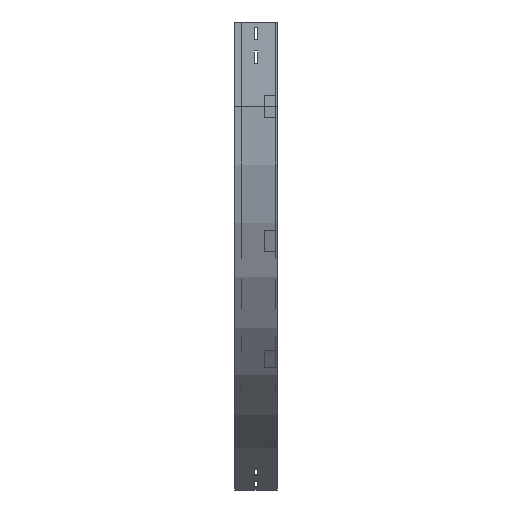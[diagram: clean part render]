
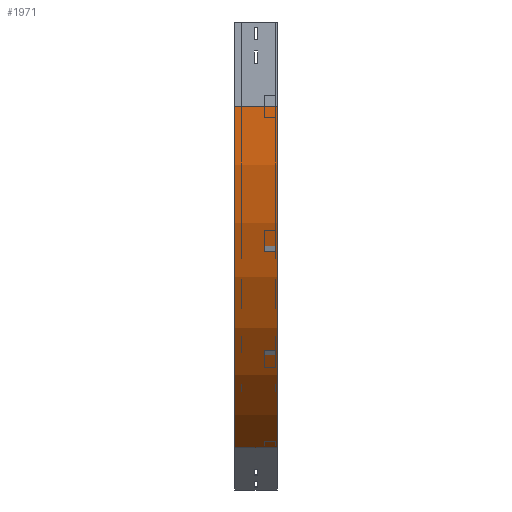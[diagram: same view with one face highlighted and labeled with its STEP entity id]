
A CAD part, left-side view. The second image highlights one B-rep face of the part: STEP entity #1971.
In plain terms, the highlighted cylindrical face has radius 700 mm (diameter 1400 mm), a partial arc.
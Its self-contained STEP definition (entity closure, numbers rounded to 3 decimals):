
#28 = DIRECTION ( 'NONE',  ( 0., -1., 0. ) ) ;
#102 = DIRECTION ( 'NONE',  ( 0., 0., -1. ) ) ;
#233 = DIRECTION ( 'NONE',  ( 0., -1., 0. ) ) ;
#326 = ORIENTED_EDGE ( 'NONE', *, *, #1697, .F. ) ;
#422 = DIRECTION ( 'NONE',  ( 0., -1., 0. ) ) ;
#472 = VERTEX_POINT ( 'NONE', #2286 ) ;
#741 = VERTEX_POINT ( 'NONE', #1064 ) ;
#760 = DIRECTION ( 'NONE',  ( 0., -1., 0. ) ) ;
#1006 = AXIS2_PLACEMENT_3D ( 'NONE', #3040, #422, #102 ) ;
#1064 = CARTESIAN_POINT ( 'NONE',  ( 0., 0., -150. ) ) ;
#1359 = DIRECTION ( 'NONE',  ( -1., 0., 0. ) ) ;
#1370 = AXIS2_PLACEMENT_3D ( 'NONE', #3223, #233, #1715 ) ;
#1645 = EDGE_LOOP ( 'NONE', ( #326, #3646, #1778, #3128 ) ) ;
#1685 = AXIS2_PLACEMENT_3D ( 'NONE', #1979, #760, #1359 ) ;
#1697 = EDGE_CURVE ( 'NONE', #741, #472, #2359, .T. ) ;
#1715 = DIRECTION ( 'NONE',  ( -1., 0., 0. ) ) ;
#1778 = ORIENTED_EDGE ( 'NONE', *, *, #2108, .T. ) ;
#1862 = EDGE_CURVE ( 'NONE', #2592, #472, #3611, .T. ) ;
#1971 = ADVANCED_FACE ( 'NONE', ( #2523 ), #2213, .T. ) ;
#1979 = CARTESIAN_POINT ( 'NONE',  ( 700., 75., -150. ) ) ;
#2073 = CARTESIAN_POINT ( 'NONE',  ( 0., 0., -150. ) ) ;
#2108 = EDGE_CURVE ( 'NONE', #2454, #2592, #2493, .T. ) ;
#2213 = CYLINDRICAL_SURFACE ( 'NONE', #1006, 700. ) ;
#2262 = CARTESIAN_POINT ( 'NONE',  ( 0., 75., -150. ) ) ;
#2286 = CARTESIAN_POINT ( 'NONE',  ( 350., 0., -756.218 ) ) ;
#2304 = VECTOR ( 'NONE', #28, 1000. ) ;
#2359 = CIRCLE ( 'NONE', #1370, 700. ) ;
#2454 = VERTEX_POINT ( 'NONE', #2262 ) ;
#2493 = CIRCLE ( 'NONE', #1685, 700. ) ;
#2523 = FACE_OUTER_BOUND ( 'NONE', #1645, .T. ) ;
#2592 = VERTEX_POINT ( 'NONE', #3824 ) ;
#2830 = EDGE_CURVE ( 'NONE', #2454, #741, #3641, .T. ) ;
#2847 = VECTOR ( 'NONE', #2930, 1000. ) ;
#2930 = DIRECTION ( 'NONE',  ( 0., -1., 0. ) ) ;
#3040 = CARTESIAN_POINT ( 'NONE',  ( 700., 0., -150. ) ) ;
#3128 = ORIENTED_EDGE ( 'NONE', *, *, #1862, .T. ) ;
#3223 = CARTESIAN_POINT ( 'NONE',  ( 700., 0., -150. ) ) ;
#3280 = CARTESIAN_POINT ( 'NONE',  ( 350., 0., -756.218 ) ) ;
#3611 = LINE ( 'NONE', #3280, #2304 ) ;
#3641 = LINE ( 'NONE', #2073, #2847 ) ;
#3646 = ORIENTED_EDGE ( 'NONE', *, *, #2830, .F. ) ;
#3824 = CARTESIAN_POINT ( 'NONE',  ( 350., 75., -756.218 ) ) ;
